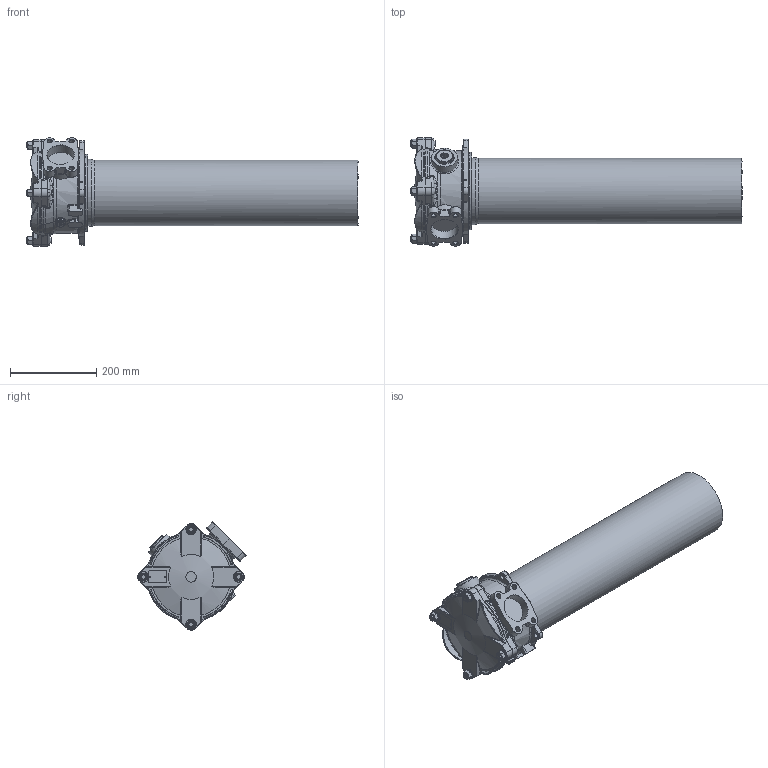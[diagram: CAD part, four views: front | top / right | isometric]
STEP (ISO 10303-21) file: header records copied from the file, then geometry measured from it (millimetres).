
FILE_DESCRIPTION((''),'2;1');
FILE_NAME('U:\Users\t.schleuter\Ruecklauffilter14197800(237440).stp','2013-04-12T15:36:18',('User'),('SDRC'),'I-DEAS Master Series 9','UNIX','Yes');
FILE_SCHEMA(('AUTOMOTIVE_DESIGN { 1 0 10303 214 1 1 1 1 }'));
Length unit declared in the file: millimetre
Products named in the file (1): 14197800(237440)
Bounding box: 768.3 x 250.74 x 250.75 mm (x, y, z)
Volume: 15214572.7 mm3; surface area: 525903.6 mm2
Topology: 1 solids, 13 shells, 846 faces, 2034 edges, 1243 vertices
Faces by surface type: bspline 846
Entity records: 35118 total; most frequent: CARTESIAN_POINT 23583, ORIENTED_EDGE 4040, EDGE_CURVE 2020, VERTEX_POINT 1243, B_SPLINE_CURVE_WITH_KNOTS 931, EDGE_LOOP 921, FACE_OUTER_BOUND 846, ADVANCED_FACE 846
